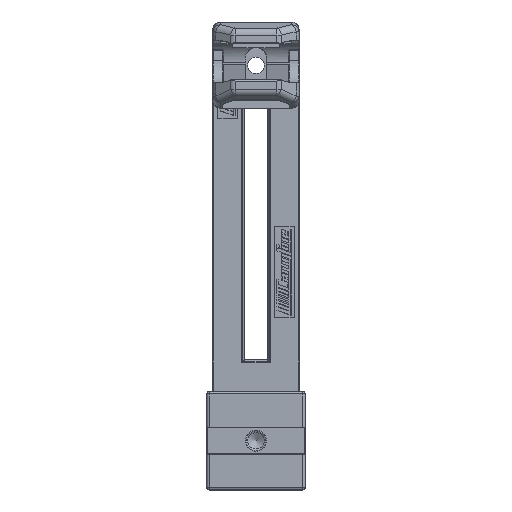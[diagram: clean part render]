
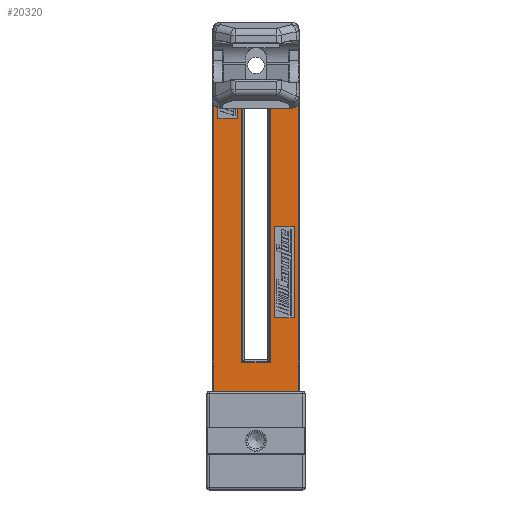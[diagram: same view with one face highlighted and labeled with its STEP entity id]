
A CAD part, front view. The second image highlights one B-rep face of the part: STEP entity #20320.
In plain terms, the highlighted planar face has unit normal (0, -1, 0) as drawn and (-1, 0, 0) by its records, which use the part's own axes.
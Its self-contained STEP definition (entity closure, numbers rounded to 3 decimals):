
#115=FACE_BOUND('',#7130,.T.);
#116=FACE_BOUND('',#7131,.T.);
#117=FACE_BOUND('',#7132,.T.);
#550=PLANE('',#22017);
#1909=LINE('',#33399,#3872);
#1911=LINE('',#33403,#3874);
#1913=LINE('',#33407,#3876);
#1915=LINE('',#33410,#3878);
#1940=LINE('',#33464,#3903);
#1941=LINE('',#33468,#3904);
#1942=LINE('',#33472,#3905);
#1943=LINE('',#33473,#3906);
#1944=LINE('',#33476,#3907);
#1945=LINE('',#33478,#3908);
#1946=LINE('',#33480,#3909);
#1947=LINE('',#33481,#3910);
#1948=LINE('',#33484,#3911);
#1949=LINE('',#33486,#3912);
#1950=LINE('',#33488,#3913);
#1951=LINE('',#33489,#3914);
#3872=VECTOR('',#25852,10.);
#3874=VECTOR('',#25856,10.);
#3876=VECTOR('',#25860,10.);
#3878=VECTOR('',#25864,10.);
#3903=VECTOR('',#25911,10.);
#3904=VECTOR('',#25914,10.);
#3905=VECTOR('',#25917,10.);
#3906=VECTOR('',#25918,10.);
#3907=VECTOR('',#25919,10.);
#3908=VECTOR('',#25920,10.);
#3909=VECTOR('',#25921,10.);
#3910=VECTOR('',#25922,10.);
#3911=VECTOR('',#25923,10.);
#3912=VECTOR('',#25924,10.);
#3913=VECTOR('',#25925,10.);
#3914=VECTOR('',#25926,10.);
#5894=FACE_OUTER_BOUND('',#7129,.T.);
#7129=EDGE_LOOP('',(#16055,#16056,#16057,#16058,#16059,#16060));
#7130=EDGE_LOOP('',(#16061,#16062,#16063,#16064));
#7131=EDGE_LOOP('',(#16065,#16066,#16067,#16068));
#7132=EDGE_LOOP('',(#16069,#16070,#16071,#16072));
#8176=CIRCLE('',#22018,2.8);
#8177=CIRCLE('',#22019,2.8);
#9466=VERTEX_POINT('',#33396);
#9467=VERTEX_POINT('',#33398);
#9468=VERTEX_POINT('',#33402);
#9469=VERTEX_POINT('',#33406);
#9486=VERTEX_POINT('',#33462);
#9487=VERTEX_POINT('',#33463);
#9488=VERTEX_POINT('',#33465);
#9489=VERTEX_POINT('',#33467);
#9490=VERTEX_POINT('',#33469);
#9491=VERTEX_POINT('',#33471);
#9492=VERTEX_POINT('',#33474);
#9493=VERTEX_POINT('',#33475);
#9494=VERTEX_POINT('',#33477);
#9495=VERTEX_POINT('',#33479);
#9496=VERTEX_POINT('',#33482);
#9497=VERTEX_POINT('',#33483);
#9498=VERTEX_POINT('',#33485);
#9499=VERTEX_POINT('',#33487);
#11814=EDGE_CURVE('',#9467,#9466,#1909,.T.);
#11816=EDGE_CURVE('',#9468,#9467,#1911,.T.);
#11818=EDGE_CURVE('',#9469,#9468,#1913,.T.);
#11820=EDGE_CURVE('',#9466,#9469,#1915,.T.);
#11845=EDGE_CURVE('',#9486,#9487,#1940,.T.);
#11846=EDGE_CURVE('',#9488,#9486,#8176,.T.);
#11847=EDGE_CURVE('',#9489,#9488,#1941,.T.);
#11848=EDGE_CURVE('',#9490,#9489,#8177,.T.);
#11849=EDGE_CURVE('',#9491,#9490,#1942,.T.);
#11850=EDGE_CURVE('',#9487,#9491,#1943,.T.);
#11851=EDGE_CURVE('',#9492,#9493,#1944,.T.);
#11852=EDGE_CURVE('',#9493,#9494,#1945,.T.);
#11853=EDGE_CURVE('',#9494,#9495,#1946,.T.);
#11854=EDGE_CURVE('',#9495,#9492,#1947,.T.);
#11855=EDGE_CURVE('',#9496,#9497,#1948,.T.);
#11856=EDGE_CURVE('',#9498,#9496,#1949,.T.);
#11857=EDGE_CURVE('',#9499,#9498,#1950,.T.);
#11858=EDGE_CURVE('',#9497,#9499,#1951,.T.);
#16055=ORIENTED_EDGE('',*,*,#11845,.F.);
#16056=ORIENTED_EDGE('',*,*,#11846,.F.);
#16057=ORIENTED_EDGE('',*,*,#11847,.F.);
#16058=ORIENTED_EDGE('',*,*,#11848,.F.);
#16059=ORIENTED_EDGE('',*,*,#11849,.F.);
#16060=ORIENTED_EDGE('',*,*,#11850,.F.);
#16061=ORIENTED_EDGE('',*,*,#11851,.T.);
#16062=ORIENTED_EDGE('',*,*,#11852,.T.);
#16063=ORIENTED_EDGE('',*,*,#11853,.T.);
#16064=ORIENTED_EDGE('',*,*,#11854,.T.);
#16065=ORIENTED_EDGE('',*,*,#11855,.F.);
#16066=ORIENTED_EDGE('',*,*,#11856,.F.);
#16067=ORIENTED_EDGE('',*,*,#11857,.F.);
#16068=ORIENTED_EDGE('',*,*,#11858,.F.);
#16069=ORIENTED_EDGE('',*,*,#11814,.T.);
#16070=ORIENTED_EDGE('',*,*,#11820,.T.);
#16071=ORIENTED_EDGE('',*,*,#11818,.T.);
#16072=ORIENTED_EDGE('',*,*,#11816,.T.);
#20320=ADVANCED_FACE('',(#5894,#115,#116,#117),#550,.T.);
#22017=AXIS2_PLACEMENT_3D('',#33461,#25909,#25910);
#22018=AXIS2_PLACEMENT_3D('',#33466,#25912,#25913);
#22019=AXIS2_PLACEMENT_3D('',#33470,#25915,#25916);
#25852=DIRECTION('',(0.,-1.,0.));
#25856=DIRECTION('',(0.,0.,1.));
#25860=DIRECTION('',(0.,1.,0.));
#25864=DIRECTION('',(0.,0.,-1.));
#25909=DIRECTION('center_axis',(-1.,0.,0.));
#25910=DIRECTION('ref_axis',(0.,0.,1.));
#25911=DIRECTION('',(0.,0.,-1.));
#25912=DIRECTION('center_axis',(1.,0.,0.));
#25913=DIRECTION('ref_axis',(0.,-0.707,0.707));
#25914=DIRECTION('',(0.,-1.,0.));
#25915=DIRECTION('center_axis',(1.,0.,0.));
#25916=DIRECTION('ref_axis',(0.,0.707,0.707));
#25917=DIRECTION('',(0.,0.,1.));
#25918=DIRECTION('',(0.,1.,0.));
#25919=DIRECTION('',(0.,-1.,0.));
#25920=DIRECTION('',(0.,0.,-1.));
#25921=DIRECTION('',(0.,1.,0.));
#25922=DIRECTION('',(0.,0.,1.));
#25923=DIRECTION('',(0.,1.,0.));
#25924=DIRECTION('',(0.,0.,1.));
#25925=DIRECTION('',(0.,-1.,0.));
#25926=DIRECTION('',(0.,0.,-1.));
#33396=CARTESIAN_POINT('',(0.,25.,148.));
#33398=CARTESIAN_POINT('',(0.,33.,148.));
#33399=CARTESIAN_POINT('',(0.,12.5,148.));
#33402=CARTESIAN_POINT('',(0.,33.,111.));
#33403=CARTESIAN_POINT('',(0.,33.,74.));
#33406=CARTESIAN_POINT('',(0.,25.,111.));
#33407=CARTESIAN_POINT('',(0.,16.5,111.));
#33410=CARTESIAN_POINT('',(0.,25.,55.5));
#33461=CARTESIAN_POINT('Origin',(0.,0.,0.));
#33462=CARTESIAN_POINT('',(0.,0.2,147.));
#33463=CARTESIAN_POINT('',(0.,0.2,0.2));
#33464=CARTESIAN_POINT('',(0.,0.2,0.));
#33465=CARTESIAN_POINT('',(0.,3.,149.8));
#33466=CARTESIAN_POINT('Origin',(0.,3.,147.));
#33467=CARTESIAN_POINT('',(0.,32.,149.8));
#33468=CARTESIAN_POINT('',(0.,8.75,149.8));
#33469=CARTESIAN_POINT('',(0.,34.8,147.));
#33470=CARTESIAN_POINT('Origin',(0.,32.,147.));
#33471=CARTESIAN_POINT('',(0.,34.8,0.2));
#33472=CARTESIAN_POINT('',(0.,34.8,0.));
#33473=CARTESIAN_POINT('',(0.,8.75,0.2));
#33474=CARTESIAN_POINT('',(0.,10.,67.));
#33475=CARTESIAN_POINT('',(0.,2.,67.));
#33476=CARTESIAN_POINT('',(0.,1.,67.));
#33477=CARTESIAN_POINT('',(0.,2.,30.));
#33478=CARTESIAN_POINT('',(0.,2.,15.));
#33479=CARTESIAN_POINT('',(0.,10.,30.));
#33480=CARTESIAN_POINT('',(0.,5.,30.));
#33481=CARTESIAN_POINT('',(0.,10.,33.5));
#33482=CARTESIAN_POINT('',(0.,11.8,138.2));
#33483=CARTESIAN_POINT('',(0.,23.2,138.2));
#33484=CARTESIAN_POINT('',(0.,6.,138.2));
#33485=CARTESIAN_POINT('',(0.,11.8,11.8));
#33486=CARTESIAN_POINT('',(0.,11.8,6.));
#33487=CARTESIAN_POINT('',(0.,23.2,11.8));
#33488=CARTESIAN_POINT('',(0.,11.5,11.8));
#33489=CARTESIAN_POINT('',(0.,23.2,69.));
